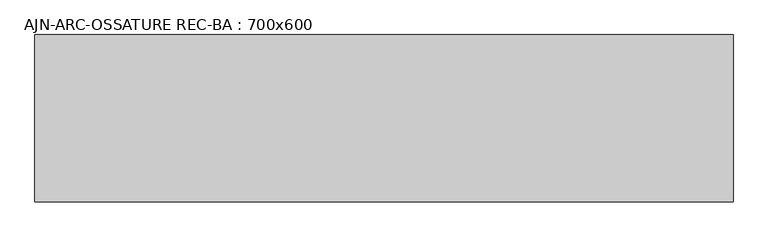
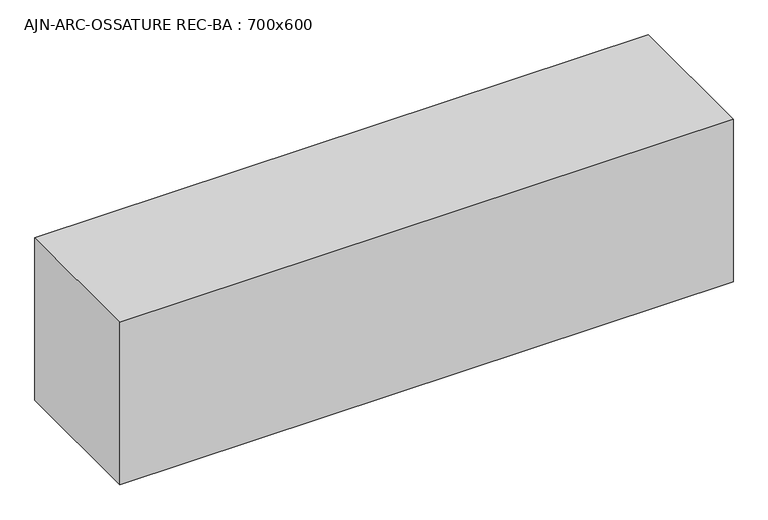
"""IFC4 building model written with IfcOpenShell, lengths in millimetres: beam geometry, AJN-ARC-OSSATURE REC-BA : 700x600."""

import ifcopenshell
import ifcopenshell.guid

model = None  # the IFC model being written
_history = None  # IfcOwnerHistory: only IFC2X3 demands one
_inside = {}  # id of a spatial element -> (the spatial element, [elements in it])
_under = {}  # id of a project, library or spatial element -> (it, [spatial elements below it])
_declared = {}  # id of a project -> (the project, [libraries it declares])
_typed = {}  # id of a type object -> (the type object, [elements of that type])
_made_of = {}  # id of a material, layer set ... -> (it, [elements and type objects made of it])


def new_model(schema):
    """Start an empty IFC model of exactly this schema.

    Asked for "IFC4X3", IfcOpenShell would pick the latest addendum, in which some entities
    have other attributes; the version numbers below select the first issue.
    IFC2X3 requires an IfcOwnerHistory on every rooted entity: one is made here for all.
    """
    global model, _history
    if schema == "IFC4X3":
        model = ifcopenshell.file(schema_version=(4, 3, 0, 0))
    else:
        model = ifcopenshell.file(schema=schema)
    _inside.clear()
    _under.clear()
    _declared.clear()
    _typed.clear()
    _made_of.clear()
    _history = None
    if model.schema == "IFC2X3":
        org = make("IfcOrganization", Name="unknown")
        user = make(
            "IfcPersonAndOrganization",
            ThePerson=make("IfcPerson", FamilyName="unknown"),
            TheOrganization=org,
        )
        app = make(
            "IfcApplication",
            ApplicationDeveloper=org,
            Version="unknown",
            ApplicationFullName="unknown",
            ApplicationIdentifier="unknown",
        )
        _history = make(
            "IfcOwnerHistory",
            OwningUser=user,
            OwningApplication=app,
            ChangeAction="ADDED",
            CreationDate=0,
        )
    return model


def make(cls, **values):
    """One entity of the class cls with the attributes given. An attribute that is None is left unset."""
    return model.create_entity(
        cls, **{name: value for name, value in values.items() if value is not None}
    )


def rooted(cls, **values):
    """An entity with a GlobalId (a new one), such as an element, a storey or a relation."""
    return make(cls, GlobalId=ifcopenshell.guid.new(), OwnerHistory=_history, **values)


def si_unit(unit_type, name, prefix=None):
    """IfcSIUnit, for example si_unit("LENGTHUNIT", "METRE", prefix="MILLI")."""
    return make("IfcSIUnit", UnitType=unit_type, Prefix=prefix, Name=name)


def assignment(units):
    """IfcUnitAssignment: the units of a project."""
    return None if units is None else make("IfcUnitAssignment", Units=units)


def point(xyz):
    """IfcCartesianPoint."""
    return None if xyz is None else make("IfcCartesianPoint", Coordinates=xyz)


def direction(xyz):
    """IfcDirection."""
    return None if xyz is None else make("IfcDirection", DirectionRatios=xyz)


def frame(location, z_axis=None, x_axis=None):
    """IfcAxis2Placement3D, a coordinate frame: its origin and axes. An axis left out is left unset."""
    return make(
        "IfcAxis2Placement3D",
        Location=point(location),
        Axis=direction(z_axis),
        RefDirection=direction(x_axis),
    )


def origin():
    """The frame at (0, 0, 0) with its axes left unset."""
    return frame((0.0, 0.0, 0.0))


def place(relative_to, where):
    """IfcLocalPlacement: puts the frame where relative to a parent placement (None: the world)."""
    return make(
        "IfcLocalPlacement", PlacementRelTo=relative_to, RelativePlacement=where
    )


def context(
    kind, dimensions, precision=None, world=None, true_north=None, identifier=None
):
    """IfcGeometricRepresentationContext, for example the 3D "Model" context."""
    return make(
        "IfcGeometricRepresentationContext",
        ContextIdentifier=identifier,
        ContextType=kind,
        CoordinateSpaceDimension=dimensions,
        Precision=precision,
        WorldCoordinateSystem=world,
        TrueNorth=true_north,
    )


def project(units=None, contexts=None):
    """IfcProject with its units and contexts."""
    return rooted(
        "IfcProject",
        Name="project",
        RepresentationContexts=contexts,
        UnitsInContext=assignment(units),
    )


def spatial(cls, under=None, at=None, **own):
    """A site, building, storey or space (cls), placed at a placement, below another one or the project."""
    s = rooted(cls, ObjectPlacement=at, **own)
    if under is not None:
        _under.setdefault(under.id(), (under, []))[1].append(s)
    return s


def polyline(points):
    """IfcPolyline through the points."""
    return make("IfcPolyline", Points=[point(p) for p in points])


def outline(outer, holes=None, kind="AREA"):
    """IfcArbitraryClosedProfileDef: a profile drawn as a closed curve; with holes, ...WithVoids."""
    if holes is None:
        return make("IfcArbitraryClosedProfileDef", ProfileType=kind, OuterCurve=outer)
    return make(
        "IfcArbitraryProfileDefWithVoids",
        ProfileType=kind,
        OuterCurve=outer,
        InnerCurves=holes,
    )


def extrude(swept, where, along, depth):
    """IfcExtrudedAreaSolid: the profile swept, set in the frame where, extruded along a direction by depth."""
    return make(
        "IfcExtrudedAreaSolid",
        SweptArea=swept,
        Position=where,
        ExtrudedDirection=direction(along),
        Depth=depth,
    )


def shape(context_of_items, identifier, shape_type, items):
    """IfcShapeRepresentation: the items that make up one representation, for example the "Body"."""
    return make(
        "IfcShapeRepresentation",
        ContextOfItems=context_of_items,
        RepresentationIdentifier=identifier,
        RepresentationType=shape_type,
        Items=items,
    )


def source(mapping_origin, context_of_items, identifier, shape_type, items):
    """IfcRepresentationMap: a shape defined once, which mapped items show again and again."""
    return make(
        "IfcRepresentationMap",
        MappingOrigin=mapping_origin,
        MappedRepresentation=shape(context_of_items, identifier, shape_type, items),
    )


def transform(
    local_origin,
    x_axis=None,
    y_axis=None,
    z_axis=None,
    scale=None,
    scale2=None,
    scale3=None,
    uniform=True,
):
    """IfcCartesianTransformationOperator3D, or its non-uniform kind. x_axis, y_axis, z_axis: its Axis1, 2, 3."""
    if uniform:
        return make(
            "IfcCartesianTransformationOperator3D",
            Axis1=direction(x_axis),
            Axis2=direction(y_axis),
            LocalOrigin=point(local_origin),
            Scale=scale,
            Axis3=direction(z_axis),
        )
    return make(
        "IfcCartesianTransformationOperator3DnonUniform",
        Axis1=direction(x_axis),
        Axis2=direction(y_axis),
        LocalOrigin=point(local_origin),
        Scale=scale,
        Axis3=direction(z_axis),
        Scale2=scale2,
        Scale3=scale3,
    )


def mapped(mapping_source, mapping_target):
    """IfcMappedItem: shows the shape of a source again, moved by a transform."""
    return make(
        "IfcMappedItem", MappingSource=mapping_source, MappingTarget=mapping_target
    )


def made_of(thing, what):
    """Note that an element or type object is made of a material, layer set ...; save() writes the relation."""
    if what is not None:
        _made_of.setdefault(what.id(), (what, []))[1].append(thing)
    return thing


def element(
    cls,
    number,
    at=None,
    inside=None,
    cuts=None,
    type_object=None,
    material=None,
    context=None,
    identifier="Body",
    shape_type=None,
    held_by="IfcProductDefinitionShape",
    body=None,
    shapes=None,
    **own,
):
    """One element of the class cls, such as IfcWall. Its Tag is "e" and its number.

    at: its placement. inside: the storey or other place that contains it. cuts: it is an
    opening in that element (IfcRelVoidsElement). A single representation is given by context,
    identifier, shape_type and body (its items); several are given by shapes. held_by: the class
    of the entity that holds the representations. save() writes the other relations.
    """
    e = rooted(cls, Tag="e%d" % number, ObjectPlacement=at, **own)
    if body is not None:
        shapes = [shape(context, identifier, shape_type, body)]
    if shapes is not None:
        e.Representation = make(held_by, Representations=shapes)
    if inside is not None:
        _inside.setdefault(inside.id(), (inside, []))[1].append(e)
    if cuts is not None:
        rooted(
            "IfcRelVoidsElement", RelatingBuildingElement=cuts, RelatedOpeningElement=e
        )
    if type_object is not None:
        _typed.setdefault(type_object.id(), (type_object, []))[1].append(e)
    return made_of(e, material)


def aggregate(whole, parts):
    """IfcRelAggregates: a whole, such as a stair, and the parts it consists of."""
    return rooted("IfcRelAggregates", RelatingObject=whole, RelatedObjects=parts)


def save(model, path):
    """Write the relations noted so far, then the file.

    IfcRelAggregates (storeys below a building ...), IfcRelContainedInSpatialStructure (elements
    in a storey), IfcRelDefinesByType, IfcRelAssociatesMaterial and IfcRelDeclares: one each for
    every whole, place, type object, material and project.
    """
    for whole, parts in _under.values():
        aggregate(whole, parts)
    for where, things in _inside.values():
        rooted(
            "IfcRelContainedInSpatialStructure",
            RelatedElements=things,
            RelatingStructure=where,
        )
    for kind, things in _typed.values():
        rooted("IfcRelDefinesByType", RelatedObjects=things, RelatingType=kind)
    for what, things in _made_of.values():
        rooted("IfcRelAssociatesMaterial", RelatedObjects=things, RelatingMaterial=what)
    for by, libraries in _declared.values():
        rooted("IfcRelDeclares", RelatingContext=by, RelatedDefinitions=libraries)
    model.write(path)


def ajn_arc_ossature_rec_ba_700x600_5363c8ec(model_context):
    return source(origin(), model_context, "Body", "SweptSolid", [
        extrude(outline(polyline([(1100.0, 300.0), (1100.0, -300.0), (-1400.0, -300.0), (-1400.0, 300.0), (1100.0, 300.0)])), frame((0.0, 0.0, -350.0), z_axis=(0.0, 0.0, 1.0), x_axis=(1.0, 0.0, 0.0)), (0.0, 0.0, 1.0), 700.0),
    ])


if __name__ == "__main__":
    model = new_model("IFC4")
    model_context = context("Model", 3, world=origin())
    ifc_project = project(units=[si_unit("LENGTHUNIT", "METRE", prefix="MILLI")], contexts=[model_context])
    site = spatial("IfcSite", under=ifc_project)
    building = spatial("IfcBuilding", under=site)
    placement = place(None, origin())
    ajn_arc_ossature_rec_ba_700x600_shape = ajn_arc_ossature_rec_ba_700x600_5363c8ec(model_context)
    element("IfcBeam", 1, ObjectType="AJN-ARC-OSSATURE REC-BA : 700x600", at=placement, inside=building, context=model_context, shape_type="MappedRepresentation", body=[
        mapped(ajn_arc_ossature_rec_ba_700x600_shape, transform((0.0, 0.0, 0.0), x_axis=(1.0, 0.0, 0.0), y_axis=(0.0, 1.0, 0.0), z_axis=(0.0, 0.0, 1.0))),
    ])
    save(model, "model.ifc")
